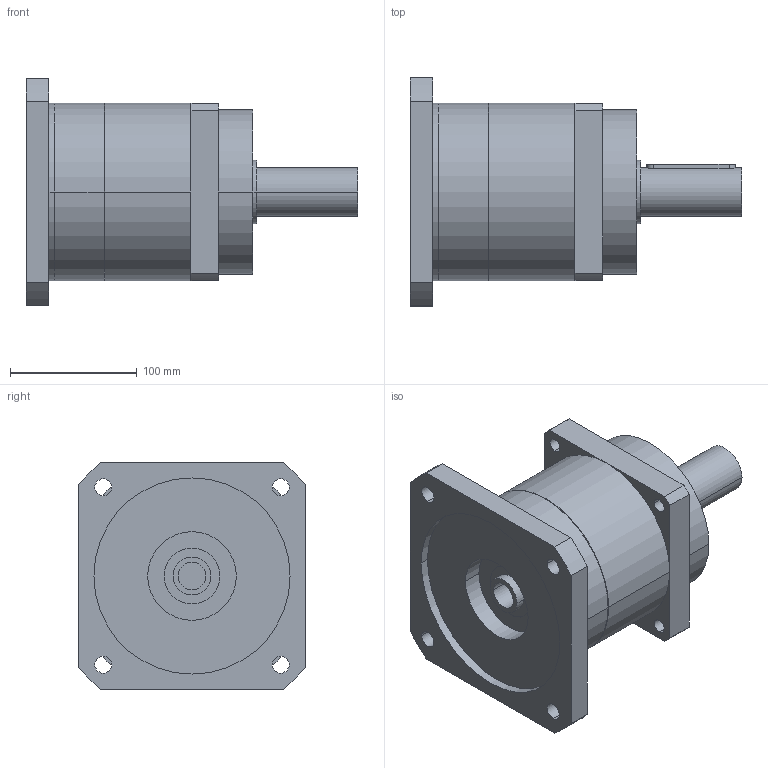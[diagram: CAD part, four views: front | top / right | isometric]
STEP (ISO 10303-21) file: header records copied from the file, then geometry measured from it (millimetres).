
FILE_DESCRIPTION(('CoCreate Modeling STEP Export'),'2;1');
FILE_NAME('GPR150_ig-3-4-5-7_38_B5_22_P11.stp','2014-08-26T15:29:19',(''),(''),'CoCreate Modeling STEP processor for AP214 (Solid Model)','CoCreate Modeling 16.00C 25-Feb-2009 (C) Parametric Technology GmbH','');
FILE_SCHEMA(('AUTOMOTIVE_DESIGN { 1 0 10303 214 1 1 1 1 }'));
Length unit declared in the file: millimetre
Products named in the file (2): GPR150_ig-3-4-5-7_38_B5_22_P11
Assembly tree (1 placements, depth 2):
  GPR150_ig-3-4-5-7_38_B5_22_P11
    GPR150_ig-3-4-5-7_38_B5_22_P11
Bounding box: 262 x 180 x 180 mm (x, y, z)
Volume: 2958146.9 mm3; surface area: 183046.8 mm2
Topology: 1 solids, 1 shells, 84 faces, 225 edges, 153 vertices
Faces by surface type: cylinder 50, plane 28, cone 6
Entity records: 2385 total; most frequent: ORIENTED_EDGE 446, CARTESIAN_POINT 440, DIRECTION 340, EDGE_CURVE 223, VERTEX_POINT 153, AXIS2_PLACEMENT_3D 125, EDGE_LOOP 112, VECTOR 90
